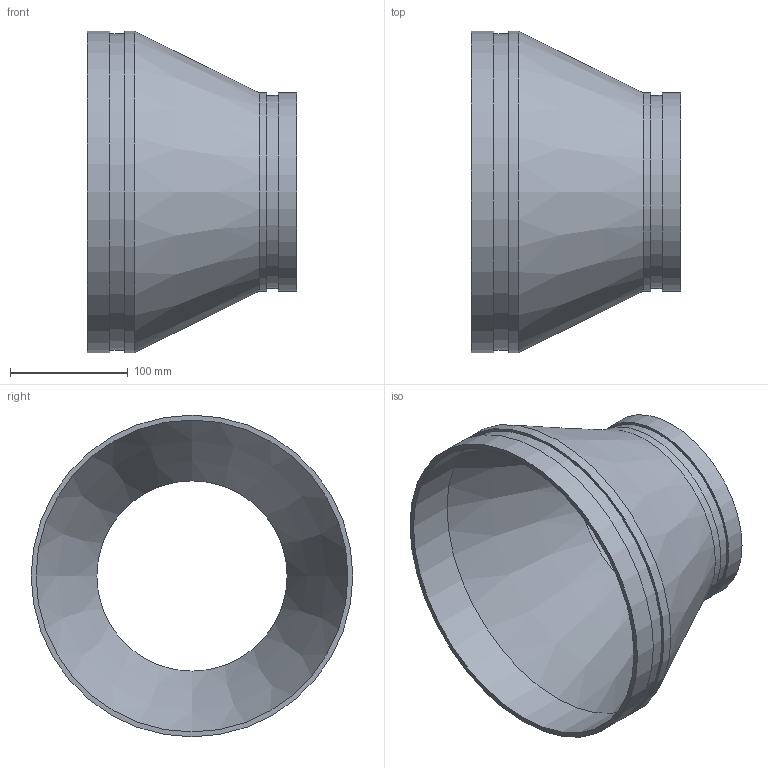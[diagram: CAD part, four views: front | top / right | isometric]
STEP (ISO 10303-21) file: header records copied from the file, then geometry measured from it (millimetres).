
FILE_DESCRIPTION(/* description */ ('VIC REDUCER CONCENTRIC No 450-SS','CAx-IF Rec.Pracs.---Representation and Presentation of Product Manufacturing Information (PMI)---4.0---2014-10-13'),/* implementation_level */ '2;1');
FILE_NAME(/* name */ 'C:\Users\kkamble\AppData\Roaming\Autodesk\ApplicationPlugins\Back Up\Victaulic_SS-OGS_Reducer Concentric_Sched 10S_No 450 SS (OGS)\Victaulic_SS-OGS_Reducer Concentric_Sched 10S_No 450 SS (OGS)_10.0x06.0 (250x150).stp',/* time_stamp */ '2020-09-08T12:33:54+05:00',/* author */ ('CORINNE GRAY'),/* organization */ ('Victaulic'),/* preprocessor_version */ 'ST-DEVELOPER v17.2',/* originating_system */ 'Autodesk Inventor 2019',/* authorisation */ '');
FILE_SCHEMA (('AP242_MANAGED_MODEL_BASED_3D_ENGINEERING_MIM_LF { 1 0 10303 442 1 1 4 }'));
Length unit declared in the file: inch
Products named in the file (1): 450 SS-10.0x06.0
Bounding box: 177.8 x 273.05 x 273.05 mm (x, y, z)
Volume: 435740.5 mm3; surface area: 272706.2 mm2
Topology: 1 solids, 1 shells, 16 faces, 42 edges, 32 vertices
Faces by surface type: cylinder 8, plane 6, cone 2
Full cylindrical faces by diameter (mm): 161.544 x1, 163.957 x1, 168.275 x2, 264.668 x1, 268.275 x1, 273.05 x2
Entity records: 686 total; most frequent: DIRECTION 134, CARTESIAN_POINT 108, ORIENTED_EDGE 84, AXIS2_PLACEMENT_3D 62, EDGE_CURVE 42, CIRCLE 32, VERTEX_POINT 32, EDGE_LOOP 22
